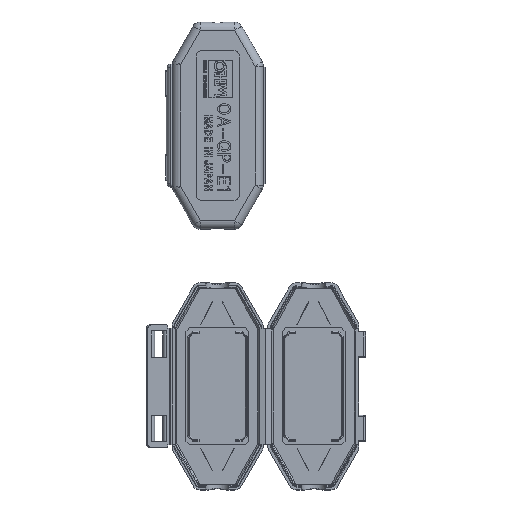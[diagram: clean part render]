
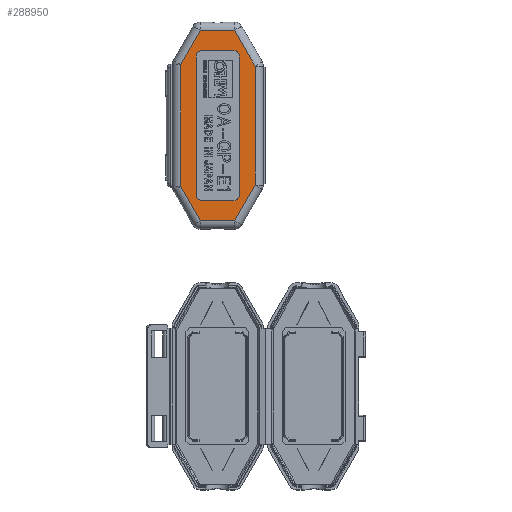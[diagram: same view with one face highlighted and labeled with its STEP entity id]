
A CAD part, top view. The second image highlights one B-rep face of the part: STEP entity #288950.
In plain terms, the highlighted planar face has unit normal (0, 0, 1).
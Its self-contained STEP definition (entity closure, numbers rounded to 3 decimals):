
#8030=CARTESIAN_POINT('',(52.441,-264.,4.875));
#8040=VERTEX_POINT('',#8030);
#33140=CARTESIAN_POINT('',(46.55,-253.736,
4.875));
#33150=VERTEX_POINT('',#33140);
#33420=CARTESIAN_POINT('',(46.55,-217.264,
4.875));
#33430=VERTEX_POINT('',#33420);
#33460=CARTESIAN_POINT('',(46.55,-235.35,4.875));
#33470=DIRECTION('',(0.,-1.,0.));
#33480=VECTOR('',#33470,1.);
#33490=LINE('',#33460,#33480);
#33500=EDGE_CURVE('',#33430,#33150,#33490,.T.);
#33650=CARTESIAN_POINT('',(62.659,-207.,4.875));
#33660=VERTEX_POINT('',#33650);
#33750=CARTESIAN_POINT('',(68.8,-217.7,
4.875));
#33760=VERTEX_POINT('',#33750);
#33790=CARTESIAN_POINT('',(78.93,-235.35,4.875));
#33800=DIRECTION('',(0.498,-0.867,0.));
#33810=VECTOR('',#33800,1.);
#33820=LINE('',#33790,#33810);
#33830=EDGE_CURVE('',#33660,#33760,#33820,.T.);
#38420=CARTESIAN_POINT('',(52.441,-207.,4.875));
#38430=VERTEX_POINT('',#38420);
#45210=CARTESIAN_POINT('',(64.15,-215.,4.875));
#45220=VERTEX_POINT('',#45210);
#45380=CARTESIAN_POINT('',(62.15,-213.,
4.875));
#45390=VERTEX_POINT('',#45380);
#45420=CARTESIAN_POINT('',(62.15,-215.,4.875));
#45430=DIRECTION('',(0.,0.,1.));
#45440=DIRECTION('',(0.,-1.,0.));
#45450=AXIS2_PLACEMENT_3D('',#45420,#45430,#45440);
#45460=CIRCLE('',#45450,2.);
#45470=EDGE_CURVE('',#45220,#45390,#45460,.T.);
#47030=CARTESIAN_POINT('',(62.659,-264.,4.875));
#47040=VERTEX_POINT('',#47030);
#50150=CARTESIAN_POINT('',(68.8,-253.3,
4.875));
#50160=VERTEX_POINT('',#50150);
#50190=CARTESIAN_POINT('',(68.8,-235.35,4.875));
#50200=DIRECTION('',(0.,-1.,0.));
#50210=VECTOR('',#50200,1.);
#50220=LINE('',#50190,#50210);
#50230=EDGE_CURVE('',#33760,#50160,#50220,.T.);
#61020=CARTESIAN_POINT('',(79.102,-235.35,4.875));
#61030=DIRECTION('',(0.498,0.867,0.));
#61040=VECTOR('',#61030,1.);
#61050=LINE('',#61020,#61040);
#61060=EDGE_CURVE('',#47040,#50160,#61050,.T.);
#61860=CARTESIAN_POINT('',(85.35,-207.,4.875));
#61870=DIRECTION('',(1.,0.,0.));
#61880=VECTOR('',#61870,1.);
#61890=LINE('',#61860,#61880);
#61900=EDGE_CURVE('',#38430,#33660,#61890,.T.);
#79030=CARTESIAN_POINT('',(36.17,-235.35,4.875));
#79040=DIRECTION('',(0.498,0.867,0.));
#79050=VECTOR('',#79040,1.);
#79060=LINE('',#79030,#79050);
#79070=EDGE_CURVE('',#33430,#38430,#79060,.T.);
#84350=CARTESIAN_POINT('',(51.15,-256.,4.875));
#84360=VERTEX_POINT('',#84350);
#84390=CARTESIAN_POINT('',(51.15,-235.35,4.875));
#84400=DIRECTION('',(0.,1.,0.));
#84410=VECTOR('',#84400,1.);
#84420=LINE('',#84390,#84410);
#84430=CARTESIAN_POINT('',(51.15,-215.,4.875));
#84440=VERTEX_POINT('',#84430);
#84450=EDGE_CURVE('',#84360,#84440,#84420,.T.);
#93650=CARTESIAN_POINT('',(85.35,-264.,4.875));
#93660=DIRECTION('',(1.,0.,0.));
#93670=VECTOR('',#93660,1.);
#93680=LINE('',#93650,#93670);
#93690=EDGE_CURVE('',#8040,#47040,#93680,.T.);
#95970=CARTESIAN_POINT('',(53.15,-256.,4.875));
#95980=DIRECTION('',(0.,0.,1.));
#95990=DIRECTION('',(0.,-1.,0.));
#96000=AXIS2_PLACEMENT_3D('',#95970,#95980,#95990);
#96010=CIRCLE('',#96000,2.);
#96020=CARTESIAN_POINT('',(53.15,-258.,4.875));
#96030=VERTEX_POINT('',#96020);
#96040=EDGE_CURVE('',#84360,#96030,#96010,.T.);
#100830=CARTESIAN_POINT('',(64.15,-256.,4.875));
#100840=VERTEX_POINT('',#100830);
#100940=CARTESIAN_POINT('',(64.15,-235.35,4.875));
#100950=DIRECTION('',(0.,-1.,0.));
#100960=VECTOR('',#100950,1.);
#100970=LINE('',#100940,#100960);
#100980=EDGE_CURVE('',#45220,#100840,#100970,.T.);
#122800=CARTESIAN_POINT('',(35.998,-235.35,4.875));
#122810=DIRECTION('',(0.498,-0.867,0.));
#122820=VECTOR('',#122810,1.);
#122830=LINE('',#122800,#122820);
#122840=EDGE_CURVE('',#33150,#8040,#122830,.T.);
#124670=CARTESIAN_POINT('',(53.15,-215.,4.875));
#124680=DIRECTION('',(0.,0.,1.));
#124690=DIRECTION('',(0.,-1.,0.));
#124700=AXIS2_PLACEMENT_3D('',#124670,#124680,#124690);
#124710=CIRCLE('',#124700,2.);
#124720=CARTESIAN_POINT('',(53.15,-213.,4.875));
#124730=VERTEX_POINT('',#124720);
#124740=EDGE_CURVE('',#124730,#84440,#124710,.T.);
#136240=CARTESIAN_POINT('',(62.15,-258.,4.875));
#136250=VERTEX_POINT('',#136240);
#136280=CARTESIAN_POINT('',(85.35,-258.,4.875));
#136290=DIRECTION('',(-1.,0.,0.));
#136300=VECTOR('',#136290,1.);
#136310=LINE('',#136280,#136300);
#136320=EDGE_CURVE('',#136250,#96030,#136310,.T.);
#136500=CARTESIAN_POINT('',(85.35,-213.,4.875));
#136510=DIRECTION('',(1.,0.,0.));
#136520=VECTOR('',#136510,1.);
#136530=LINE('',#136500,#136520);
#136540=EDGE_CURVE('',#124730,#45390,#136530,.T.);
#136730=CARTESIAN_POINT('',(62.15,-256.,4.875));
#136740=DIRECTION('',(0.,0.,1.));
#136750=DIRECTION('',(0.,-1.,0.));
#136760=AXIS2_PLACEMENT_3D('',#136730,#136740,#136750);
#136770=CIRCLE('',#136760,2.);
#136780=EDGE_CURVE('',#136250,#100840,#136770,.T.);
#288700=CARTESIAN_POINT('',(57.7,-235.5,4.875));
#288710=DIRECTION('',(0.,0.,-1.));
#288720=DIRECTION('',(-1.,0.,0.));
#288730=AXIS2_PLACEMENT_3D('',#288700,#288710,#288720);
#288740=PLANE('',#288730);
#288750=ORIENTED_EDGE('',*,*,#136780,.F.);
#288760=ORIENTED_EDGE('',*,*,#100980,.T.);
#288770=ORIENTED_EDGE('',*,*,#45470,.F.);
#288780=ORIENTED_EDGE('',*,*,#136540,.T.);
#288790=ORIENTED_EDGE('',*,*,#124740,.F.);
#288800=ORIENTED_EDGE('',*,*,#84450,.T.);
#288810=ORIENTED_EDGE('',*,*,#96040,.F.);
#288820=ORIENTED_EDGE('',*,*,#136320,.T.);
#288830=EDGE_LOOP('',(#288820,#288810,#288800,#288790,#288780,#288770,
#288760,#288750));
#288840=FACE_BOUND('',#288830,.T.);
#288850=ORIENTED_EDGE('',*,*,#50230,.F.);
#288860=ORIENTED_EDGE('',*,*,#61060,.T.);
#288870=ORIENTED_EDGE('',*,*,#93690,.T.);
#288880=ORIENTED_EDGE('',*,*,#122840,.T.);
#288890=ORIENTED_EDGE('',*,*,#33500,.T.);
#288900=ORIENTED_EDGE('',*,*,#79070,.F.);
#288910=ORIENTED_EDGE('',*,*,#61900,.F.);
#288920=ORIENTED_EDGE('',*,*,#33830,.F.);
#288930=EDGE_LOOP('',(#288920,#288910,#288900,#288890,#288880,#288870,
#288860,#288850));
#288940=FACE_OUTER_BOUND('',#288930,.T.);
#288950=ADVANCED_FACE('',(#288840,#288940),#288740,.F.);
